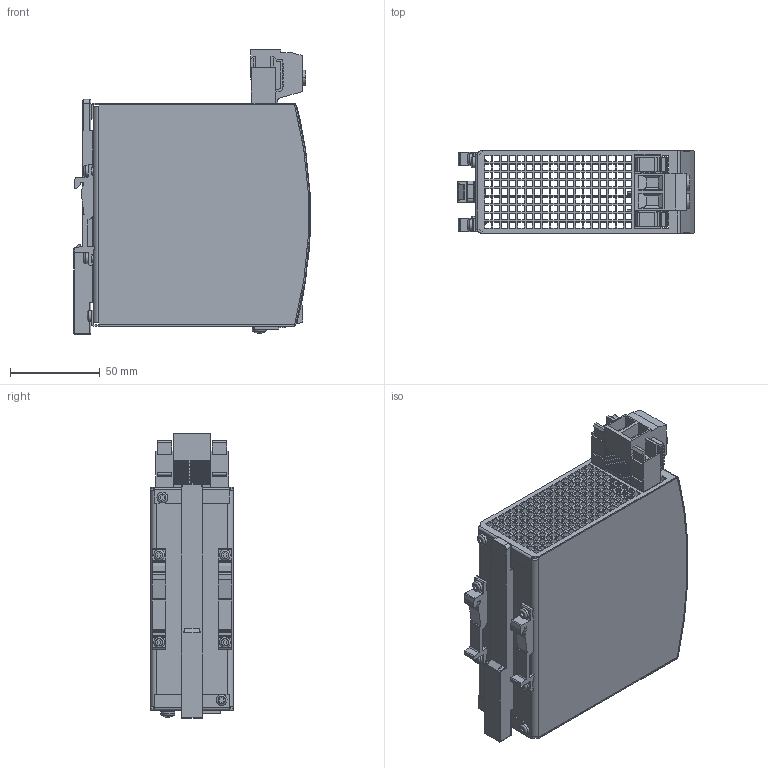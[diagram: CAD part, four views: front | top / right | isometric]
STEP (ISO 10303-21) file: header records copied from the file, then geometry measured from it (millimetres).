
FILE_DESCRIPTION((''),'2;1');
FILE_NAME('C:\Users\rahns\Desktop\Marketing\SD1YR40-245SR1_SC_2014-07-01.stp','2014-07-01T11:04:43',('rahns'),(''),'Autodesk Inventor 2009','Autodesk Inventor 2009','');
FILE_SCHEMA(('AUTOMOTIVE_DESIGN { 1 0 10303 214 1 1 1 1 }'));
Length unit declared in the file: millimetre
Products named in the file (11): 403; HOUSING BODY 403; HOUSING COVER 403; FRONTFOIL 403; SCREW 3x6; T HOLDER; SLIDER; SCREW 4x8; WASHER 4; XT-LP2BK-D5; TERMINAL 2P-45
Assembly tree (16 placements, depth 2):
  403
    HOUSING BODY 403
    HOUSING COVER 403
    FRONTFOIL 403
    SCREW 3x6  x6
    T HOLDER  x2
    SLIDER
    SCREW 4x8
    WASHER 4
    XT-LP2BK-D5
    TERMINAL 2P-45
Bounding box: 131.29 x 46 x 158.06 mm (x, y, z)
Volume: 84008.6 mm3; surface area: 130992.6 mm2
Topology: 15 solids, 413 shells, 2891 faces, 9412 edges, 7030 vertices
Faces by surface type: plane 2315, cylinder 267, bspline 266, cone 18, torus 16, sphere 9
Full cylindrical faces by diameter (mm): 0.5 x1, 2.45 x2, 3 x6, 3.1 x4, 3.621 x1, 4 x1, 4.5 x1, 6 x6, 7 x2
Entity records: 108497 total; most frequent: CARTESIAN_POINT 25908, ORIENTED_EDGE 15836, DIRECTION 14401, EDGE_CURVE 9048, VECTOR 7575, LINE 7575, VERTEX_POINT 6792, EDGE_LOOP 3586
